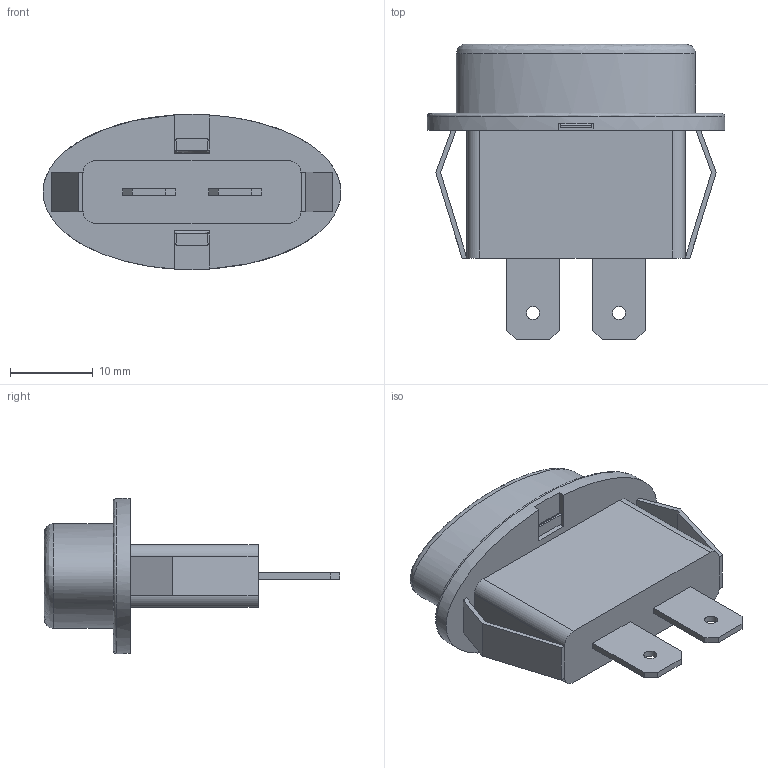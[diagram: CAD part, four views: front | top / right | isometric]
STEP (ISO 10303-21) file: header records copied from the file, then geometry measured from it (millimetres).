
FILE_DESCRIPTION(/* description */ (''),/* implementation_level */ '2;1');
FILE_NAME(/* name */ 'C:\Users\Hani\Desktop\work\BLR-I-301\BLR-I-301.stp',/* time_stamp */ '2021-02-07T08:52:38-08:00',/* author */ ('Hani'),/* organization */ (''),/* preprocessor_version */ 'ST-DEVELOPER v17',/* originating_system */ 'Autodesk Inventor 2019',/* authorisation */ '');
FILE_SCHEMA (('AUTOMOTIVE_DESIGN { 1 0 10303 214 3 1 1 }'));
Length unit declared in the file: inch
Products named in the file (1): BLR-I-301_cover
Bounding box: 36.07 x 35.81 x 18.8 mm (x, y, z)
Volume: 4714.8 mm3; surface area: 4820.8 mm2
Topology: 2 solids, 2 shells, 104 faces, 280 edges, 182 vertices
Faces by surface type: plane 88, cylinder 9, bspline 6, sphere 1
Full cylindrical faces by diameter (mm): 1.575 x2, 2.87 x1
Entity records: 4165 total; most frequent: CARTESIAN_POINT 1482, ORIENTED_EDGE 558, DIRECTION 497, EDGE_CURVE 279, LINE 235, VECTOR 235, VERTEX_POINT 182, AXIS2_PLACEMENT_3D 131
